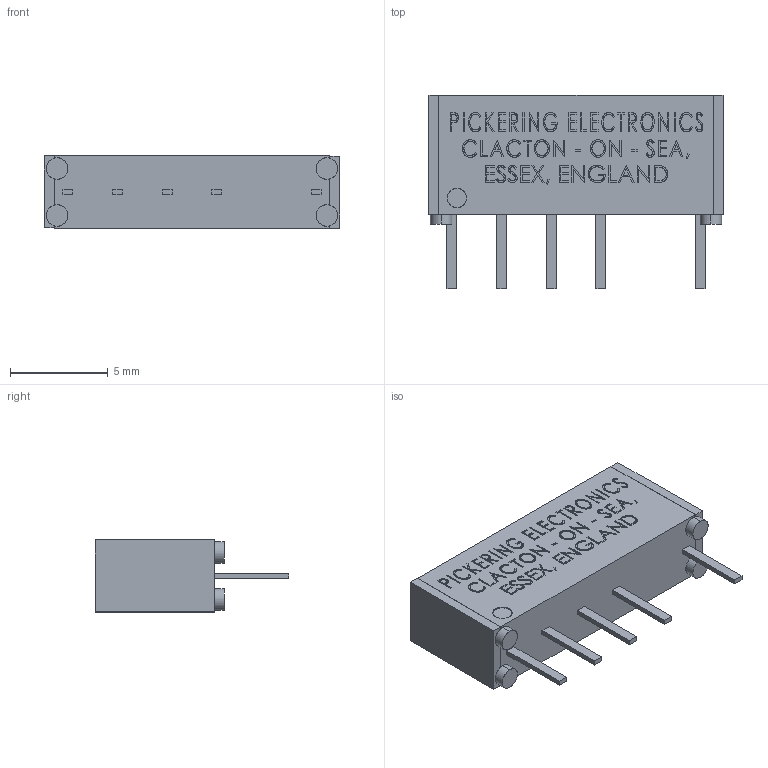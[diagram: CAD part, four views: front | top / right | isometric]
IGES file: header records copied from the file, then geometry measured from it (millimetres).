
Start section: SolidWorks IGES file using analytic representation for surfaces
Global section: file name: C:\Documents and Settings\alex.leming\Desktop\Replacement Models\109-1-C-x-xx.IGS; native system: SolidWorks 2009; preprocessor: SolidWorks 2009; author: alex.leming; date: 101126.112502; units: millimetre
Bounding box: 15.1 x 9.9 x 3.7 mm (x, y, z)
Surface area: 486.6 mm2 (no closed solid volume)
Topology: 0 solids, 0 shells, 1009 faces, 8760 edges, 8760 vertices
Faces by surface type: bspline 999, revolution 10
